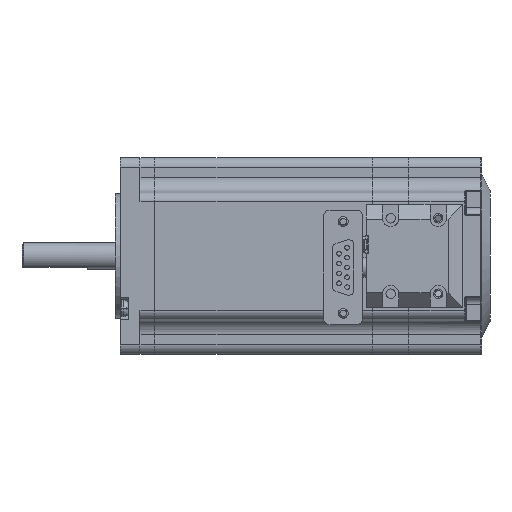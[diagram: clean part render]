
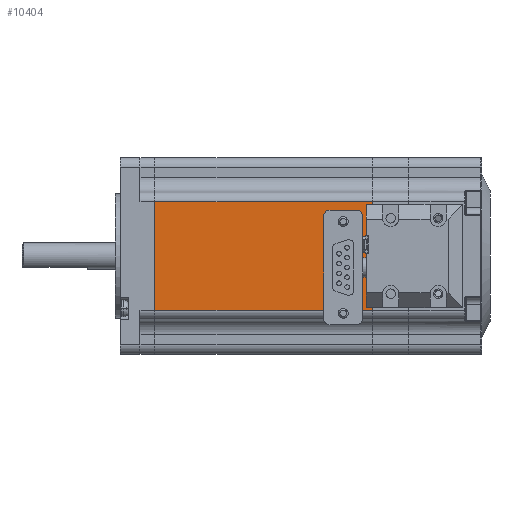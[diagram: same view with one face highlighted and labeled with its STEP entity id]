
A CAD part, left-side view. The second image highlights one B-rep face of the part: STEP entity #10404.
In plain terms, the highlighted planar face has unit normal (-1, 0, 0).
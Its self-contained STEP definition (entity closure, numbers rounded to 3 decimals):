
#245 = VERTEX_POINT ( 'NONE', #15220 ) ;
#582 = DIRECTION ( 'NONE',  ( 0., 0., 1. ) ) ;
#738 = LINE ( 'NONE', #14440, #17514 ) ;
#2522 = LINE ( 'NONE', #12665, #9702 ) ;
#2863 = EDGE_LOOP ( 'NONE', ( #7551, #13996, #19423, #19075 ) ) ;
#2927 = VECTOR ( 'NONE', #3712, 1000. ) ;
#2949 = DIRECTION ( 'NONE',  ( 1., 0., 0. ) ) ;
#3712 = DIRECTION ( 'NONE',  ( 0., -1., 0. ) ) ;
#5974 = PLANE ( 'NONE',  #9589 ) ;
#6451 = DIRECTION ( 'NONE',  ( 0., 0., -1. ) ) ;
#6564 = FACE_OUTER_BOUND ( 'NONE', #2863, .T. ) ;
#7551 = ORIENTED_EDGE ( 'NONE', *, *, #9641, .F. ) ;
#8277 = DIRECTION ( 'NONE',  ( 0., 1., 0. ) ) ;
#8304 = CARTESIAN_POINT ( 'NONE',  ( -28.2, 0., 16.9 ) ) ;
#8639 = EDGE_CURVE ( 'NONE', #15642, #14873, #2522, .T. ) ;
#9589 = AXIS2_PLACEMENT_3D ( 'NONE', #12168, #2949, #13701 ) ;
#9641 = EDGE_CURVE ( 'NONE', #14873, #245, #12401, .T. ) ;
#9702 = VECTOR ( 'NONE', #6451, 1000. ) ;
#9814 = CARTESIAN_POINT ( 'NONE',  ( -28.2, 53.5, 16.9 ) ) ;
#9831 = CARTESIAN_POINT ( 'NONE',  ( -28.2, 53.5, -16.1 ) ) ;
#10404 = ADVANCED_FACE ( 'NONE', ( #6564 ), #5974, .F. ) ;
#11082 = LINE ( 'NONE', #9814, #2927 ) ;
#11766 = EDGE_CURVE ( 'NONE', #14152, #15642, #11082, .T. ) ;
#12168 = CARTESIAN_POINT ( 'NONE',  ( -28.2, 53.5, 19.9 ) ) ;
#12401 = LINE ( 'NONE', #9831, #15970 ) ;
#12665 = CARTESIAN_POINT ( 'NONE',  ( -28.2, 0., 19.9 ) ) ;
#13701 = DIRECTION ( 'NONE',  ( 0., 0., -1. ) ) ;
#13996 = ORIENTED_EDGE ( 'NONE', *, *, #8639, .F. ) ;
#14152 = VERTEX_POINT ( 'NONE', #14190 ) ;
#14190 = CARTESIAN_POINT ( 'NONE',  ( -28.2, 66.5, 16.9 ) ) ;
#14440 = CARTESIAN_POINT ( 'NONE',  ( -28.2, 66.5, -23.6 ) ) ;
#14873 = VERTEX_POINT ( 'NONE', #15324 ) ;
#15220 = CARTESIAN_POINT ( 'NONE',  ( -28.2, 66.5, -16.1 ) ) ;
#15324 = CARTESIAN_POINT ( 'NONE',  ( -28.2, 0., -16.1 ) ) ;
#15617 = EDGE_CURVE ( 'NONE', #245, #14152, #738, .T. ) ;
#15642 = VERTEX_POINT ( 'NONE', #8304 ) ;
#15970 = VECTOR ( 'NONE', #8277, 1000. ) ;
#17514 = VECTOR ( 'NONE', #582, 1000. ) ;
#19075 = ORIENTED_EDGE ( 'NONE', *, *, #15617, .F. ) ;
#19423 = ORIENTED_EDGE ( 'NONE', *, *, #11766, .F. ) ;
